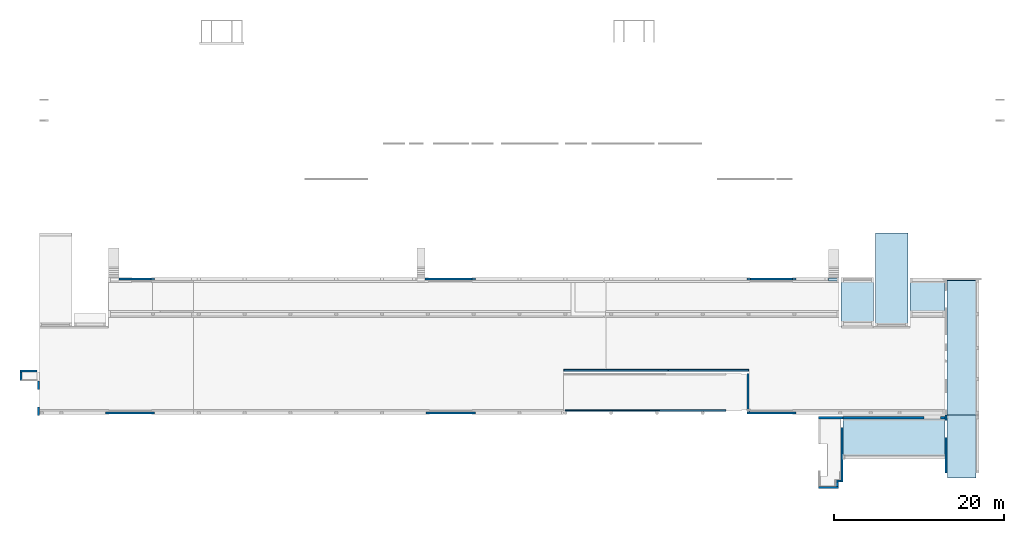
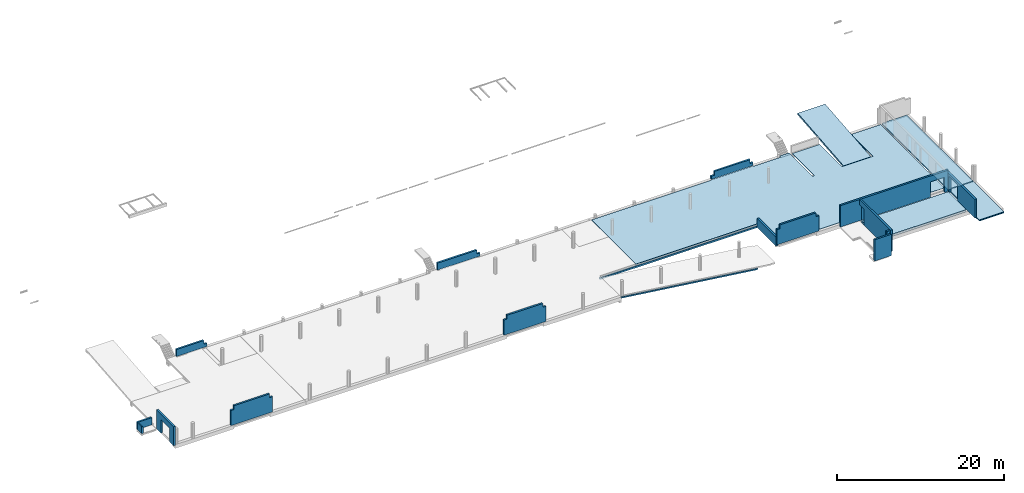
# One storey, part 5 of 9: 20 walls, 10 slabs, 16 openings.
"""IFC2X3 building model written with IfcOpenShell, lengths in millimetres."""

from ifc_helpers import new_model, entity, si_unit, converted_unit, derived_unit, direction, frame, frame_2d, origin, origin_2d_with_axis, place, context, subcontext, project, spatial, polyline, rectangle, outline, extrude, boolean, clip, bounded_halfspace, faceted_brep, material, layer, layer_set, layer_usage, type_object, element, save


model = new_model("IFC2X3")

# Units and contexts
model_context = context("Model", 3, precision=0.01, world=origin(), true_north=direction((6.12303176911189e-17, 1.0)))
body_context = subcontext(model_context, "Body", "Model", "MODEL_VIEW")
ifc_project = project(units=[si_unit("LENGTHUNIT", "METRE", prefix="MILLI"), si_unit("AREAUNIT", "SQUARE_METRE"), si_unit("VOLUMEUNIT", "CUBIC_METRE"), converted_unit("PLANEANGLEUNIT", "DEGREE", entity("IfcRatioMeasure", 0.0174532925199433), si_unit("PLANEANGLEUNIT", "RADIAN"), dimensions=[0, 0, 0, 0, 0, 0, 0]), si_unit("MASSUNIT", "GRAM", prefix="KILO"), derived_unit("MASSDENSITYUNIT", [(si_unit("MASSUNIT", "GRAM", prefix="KILO"), 1), (si_unit("LENGTHUNIT", "METRE"), -3)]), si_unit("TIMEUNIT", "SECOND"), si_unit("FREQUENCYUNIT", "HERTZ"), si_unit("THERMODYNAMICTEMPERATUREUNIT", "DEGREE_CELSIUS"), derived_unit("THERMALTRANSMITTANCEUNIT", [(si_unit("MASSUNIT", "GRAM", prefix="KILO"), 1), (si_unit("THERMODYNAMICTEMPERATUREUNIT", "KELVIN"), -1), (si_unit("TIMEUNIT", "SECOND"), -3)]), derived_unit("VOLUMETRICFLOWRATEUNIT", [(si_unit("LENGTHUNIT", "METRE"), 3), (si_unit("TIMEUNIT", "SECOND"), -1)]), si_unit("ELECTRICCURRENTUNIT", "AMPERE"), si_unit("ELECTRICVOLTAGEUNIT", "VOLT"), si_unit("POWERUNIT", "WATT"), si_unit("FORCEUNIT", "NEWTON", prefix="KILO"), si_unit("ILLUMINANCEUNIT", "LUX"), si_unit("LUMINOUSFLUXUNIT", "LUMEN"), si_unit("LUMINOUSINTENSITYUNIT", "CANDELA"), derived_unit("USERDEFINED", [(si_unit("MASSUNIT", "GRAM", prefix="KILO"), -1), (si_unit("LENGTHUNIT", "METRE"), -2), (si_unit("TIMEUNIT", "SECOND"), 3), (si_unit("LUMINOUSFLUXUNIT", "LUMEN"), 1)]), derived_unit("LINEARVELOCITYUNIT", [(si_unit("LENGTHUNIT", "METRE"), 1), (si_unit("TIMEUNIT", "SECOND"), -1)]), si_unit("PRESSUREUNIT", "PASCAL"), derived_unit("USERDEFINED", [(si_unit("LENGTHUNIT", "METRE"), -2), (si_unit("MASSUNIT", "GRAM", prefix="KILO"), 1), (si_unit("TIMEUNIT", "SECOND"), -2)])], contexts=[model_context])

# Site, building, storey
site_placement = place(None, origin())
site = spatial("IfcSite", under=ifc_project, at=site_placement, Name="Default", CompositionType="ELEMENT")
building_placement = place(site_placement, origin())
building = spatial("IfcBuilding", under=site, at=building_placement, Name="niet gebruiken", CompositionType="ELEMENT")
storey_placement = place(building_placement, frame((0.0, 0.0, 2770.0)))
storey = spatial("IfcBuildingStorey", under=building, at=storey_placement, Name="00a eerste tussenverdieping", CompositionType="ELEMENT", Elevation=2770.00000000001)

# Slabs
ifc_material_1 = material(Name="NLRS_f2_beton ihwg")
ifc_layer_1 = layer(ifc_material_1, 70.0)
ifc_layer_set_1 = layer_set([ifc_layer_1], Name="Floor:NLRS_23.21_FL_druklaag d=70 - gevlinderd en ingestrooid_gen")
ifc_layer_usage_1 = layer_usage(ifc_layer_set_1, "AXIS3", "POSITIVE", 0.0)
slab_1_placement = place(storey_placement, origin())
element("IfcSlab", 1, at=slab_1_placement, inside=storey, material=ifc_layer_usage_1, Name="Floor:NLRS_23.21_FL_druklaag d=70 - gevlinderd en ingestrooid_gen", ObjectType="Floor:NLRS_23.21_FL_druklaag d=70 - gevlinderd en ingestrooid_gen", PredefinedType="FLOOR", context=body_context, shape_type="SweptSolid", body=[
    extrude(outline(polyline([(-5935.45454545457, -24259.5454397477), (4714.54545454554, -24259.5454397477), (4714.54545454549, -7629.54543974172), (4789.54545454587, -7629.54543974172), (4789.54545454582, -1829.54543975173), (4714.54545454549, -1829.54543975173), (4714.54545454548, 1975.45456025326), (5014.54545454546, 1975.45456025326), (5014.54545454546, 3245.45456025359), (-635.4545454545, 3245.45456025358), (-635.454545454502, 3495.45456025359), (4714.54545454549, 3495.45456025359), (4714.54545454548, 7295.45456025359), (-635.454545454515, 7295.45456025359), (-635.45454545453, 11595.4545602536), (4639.54545454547, 11595.4545602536), (4639.54545454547, 15720.4545602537), (-10640.4545454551, 15720.4545602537), (-10640.4545454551, -2229.54543975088), (-10740.4545454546, -2229.54543975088), (-10740.4545454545, -7379.54560252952), (-5935.45454545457, -7379.54560252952), (-5935.45454545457, -24259.5454397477)])), frame((99229.5454397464, 20036.4545454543, 0.0), z_axis=(0.0, 0.0, -1.0), x_axis=(0.0, 1.0, 0.0)), (0.0, 0.0, 1.0), 69.9999999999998),
])
ifc_material_2 = material(Name="NLRS_f2_beton prefab")
ifc_layer_2 = layer(ifc_material_2, 255.0)
ifc_layer_set_2 = layer_set([ifc_layer_2], Name="Floor:NLRS_23.21_FL_kanaalplaat d=255_gen")
ifc_layer_usage_2 = layer_usage(ifc_layer_set_2, "AXIS3", "POSITIVE", 0.0)
slab_2_placement = place(storey_placement, origin())
element("IfcSlab", 2, at=slab_2_placement, inside=storey, material=ifc_layer_usage_2, Name="Floor:NLRS_23.21_FL_kanaalplaat d=255_gen", ObjectType="Floor:NLRS_23.21_FL_kanaalplaat d=255_gen", PredefinedType="FLOOR", context=body_context, shape_type="SweptSolid", body=[
    extrude(rectangle(XDim=3614.99999999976, YDim=4085.0008139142, at=frame_2d((2.1600499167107e-12, -8.64019966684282e-12), x_axis=(1.0, 0.0))), frame((112887.500406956, 22873.4999999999, -70.0), z_axis=(0.0, 0.0, -1.0), x_axis=(0.0, 1.0, 0.0)), (0.0, 0.0, 1.0), 255.0),
])

# Slab, opening
ifc_layer_3 = layer(ifc_material_1, 250.0)
ifc_layer_set_3 = layer_set([ifc_layer_3], Name="Floor:NLRS_23.21_FL_breedplaat d=70/250_opgeruwd_schil apart_gen")
ifc_layer_usage_3 = layer_usage(ifc_layer_set_3, "AXIS3", "POSITIVE", 0.0)
slab_3_placement = place(storey_placement, frame((106775.0, 19426.0, -251.062036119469)))
slab_3 = element("IfcSlab", 3, at=slab_3_placement, inside=storey, material=ifc_layer_usage_3, Name="Floor:NLRS_23.21_FL_breedplaat d=70/250_opgeruwd_schil apart_gen", ObjectType="Floor:NLRS_23.21_FL_breedplaat d=70/250_opgeruwd_schil apart_gen", PredefinedType="FLOOR", context=body_context, shape_type="SweptSolid", body=[
    extrude(rectangle(XDim=11049.0542581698, YDim=3799.99999999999, at=frame_2d((0.0, 5525.08843574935), x_axis=(0.0, -1.0))), frame((1900.0, -0.558814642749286, 251.062036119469), z_axis=(0.0, -0.0941257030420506, 0.995560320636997), x_axis=(1.0, 0.0, 0.0)), (0.0, -0.0941257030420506, -0.995560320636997), 251.11486950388),
])
opening_1_placement = place(slab_3_placement, origin())
element("IfcOpeningElement", 4, at=opening_1_placement, cuts=slab_3, ObjectType="Opening", context=body_context, shape_type="SweptSolid", body=[
    extrude(rectangle(XDim=380.0, YDim=3759.99999999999, at=origin_2d_with_axis()), frame((1900.0, 190.0, -214.437963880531), z_axis=(0.0, 0.0, 1.0), x_axis=(0.0, 1.0, 0.0)), (0.0, 0.0, 1.0), 250.0),
])

# Slabs
ifc_layer_usage_4 = layer_usage(ifc_layer_set_2, "AXIS3", "POSITIVE", 0.0)
slab_4_placement = place(storey_placement, origin())
element("IfcSlab", 5, at=slab_4_placement, inside=storey, material=ifc_layer_usage_4, Name="Floor:NLRS_23.21_FL_kanaalplaat d=255_gen", ObjectType="Floor:NLRS_23.21_FL_kanaalplaat d=255_gen", PredefinedType="FLOOR", context=body_context, shape_type="SweptSolid", body=[
    extrude(rectangle(XDim=4291.00000000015, YDim=11984.9999999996, at=frame_2d((4.54747350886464e-13, 0.0), x_axis=(1.0, 0.0))), frame((108937.5, 6305.50000000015, -70.0), z_axis=(0.0, 0.0, -1.0), x_axis=(0.0, 1.0, 0.0)), (0.0, 0.0, 1.0), 255.0),
])
ifc_layer_4 = layer(ifc_material_1, 70.0)
ifc_layer_set_4 = layer_set([ifc_layer_4], Name="Floor:NLRS_23.21_FL_druklaag d=70_gen")
ifc_layer_usage_5 = layer_usage(ifc_layer_set_4, "AXIS3", "POSITIVE", 0.0)
slab_5_placement = place(storey_placement, origin())
element("IfcSlab", 6, at=slab_5_placement, inside=storey, material=ifc_layer_usage_5, Name="Floor:NLRS_23.21_FL_druklaag d=70_gen", ObjectType="Floor:NLRS_23.21_FL_druklaag d=70_gen", PredefinedType="FLOOR", context=body_context, shape_type="SweptSolid", body=[
    extrude(rectangle(XDim=4330.99999999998, YDim=12024.9999079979, at=frame_2d((-2.27373675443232e-13, 8.64019966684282e-12), x_axis=(1.0, 0.0))), frame((108937.500046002, 6305.49999999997, 0.0), z_axis=(0.0, 0.0, -1.0), x_axis=(0.0, 1.0, 0.0)), (0.0, 0.0, 1.0), 69.9999999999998),
])
slab_6_placement = place(storey_placement, origin())
element("IfcSlab", 7, at=slab_6_placement, inside=storey, material=ifc_material_1, Name="Floor:NLRS_23.21_FL_breedplaat d=70/200_schil apart_gen", ObjectType="Floor:NLRS_23.21_FL_breedplaat d=70/200_schil apart_gen", PredefinedType="FLOOR", context=body_context, shape_type="Brep", body=[
    faceted_brep([(115200.0, 2100.0, -200.0), (115200.0, 8919.89264570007, -200.0), (115220.0, 8919.89264570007, -200.0), (115220.0, 2120.0, -200.0), (115245.000813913, 2120.0, -200.0), (115245.000813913, 1500.0, -200.0), (115225.000813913, 1500.0, -200.0), (115225.000813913, 2100.0, -200.0), (115225.000813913, 1500.0, 0.0), (118630.0, 1500.0, 0.0), (118630.0, 8919.89264570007, 0.0), (115200.0, 8919.89264570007, 0.0), (115200.0, 8871.0, 0.0), (115200.0, 8471.0, 0.0), (115200.0, 4140.0, 0.0), (115200.0, 3740.0, 0.0), (115200.0, 2100.0, 0.0), (115225.000813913, 2100.0, 0.0), (115245.000813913, 1500.0, -130.0), (118630.0, 1500.0, -130.0), (118630.0, 8919.89264570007, -130.0), (115220.0, 8919.89264570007, -130.0), (115220.0, 2120.0, -130.0), (115245.000813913, 2120.0, -130.0)], [[[0, 1, 2, 3, 4, 5, 6, 7]], [[8, 9, 10, 11, 12, 13, 14, 15, 16, 17]], [[9, 8, 6, 5, 18, 19]], [[1, 0, 16, 15, 14, 13, 12, 11]], [[11, 10, 20, 21, 2, 1]], [[10, 9, 19, 20]], [[7, 6, 8, 17]], [[0, 7, 17, 16]], [[22, 21, 20, 19, 18, 23]], [[21, 22, 3, 2]], [[23, 18, 5, 4]], [[22, 23, 4, 3]]]),
])
ifc_layer_5 = layer(ifc_material_1, 200.0)
ifc_layer_set_5 = layer_set([ifc_layer_5], Name="Floor:NLRS_23.21_FL_breedplaat d=70/200_schil apart_gen")
ifc_layer_usage_6 = layer_usage(ifc_layer_set_5, "AXIS3", "POSITIVE", 0.0)
slab_7_placement = place(storey_placement, origin())
element("IfcSlab", 8, at=slab_7_placement, inside=storey, material=ifc_layer_usage_6, Name="Floor:NLRS_23.21_FL_breedplaat d=70/200_schil apart_gen", ObjectType="Floor:NLRS_23.21_FL_breedplaat d=70/200_schil apart_gen", PredefinedType="FLOOR", context=body_context, shape_type="CSG", body=[
    boolean("DIFFERENCE", clip(extrude(rectangle(XDim=15906.7292147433, YDim=3450.00000000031, at=frame_2d((0.0, -8.75388650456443e-12), x_axis=(1.0, 0.0))), frame((116925.0, 16897.6353926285, 0.0), z_axis=(0.0, 0.0, -1.0), x_axis=(0.0, 1.0, 0.0)), (0.0, 0.0, 1.0), 200.0), bounded_halfspace(frame((118630.0, 10800.0, -130.0), z_axis=(0.0, 0.0, -1.0), x_axis=(0.0, 1.0, 0.0)), False, frame((116925.0, 16897.6353926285, 0.0), z_axis=(0.0, 0.0, -1.0), x_axis=(0.0, 1.0, 0.0)), polyline([(7933.36460737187, -1705.0), (7933.36460737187, 1705.0), (-7953.36460737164, 1705.0), (-7953.36460737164, -1705.0), (7933.36460737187, -1705.0)]))), extrude(rectangle(XDim=15886.7292147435, YDim=3410.00000000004, at=frame_2d((0.0, 2.60342858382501e-11), x_axis=(1.0, 0.0))), frame((116925.0, 16887.6353926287, -130.0), z_axis=(0.0, 0.0, -1.0), x_axis=(0.0, 1.0, 0.0)), (0.0, 0.0, 1.0), 69.9999999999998)),
])
ifc_layer_6 = layer(ifc_material_2, 70.0)
ifc_layer_set_6 = layer_set([ifc_layer_6], Name="Floor:NLRS_23.21_FL_breedplaatschil d=70_gen")
ifc_layer_usage_7 = layer_usage(ifc_layer_set_6, "AXIS3", "POSITIVE", 0.0)
slab_8_placement = place(storey_placement, origin())
element("IfcSlab", 9, at=slab_8_placement, inside=storey, material=ifc_layer_usage_7, Name="Floor:NLRS_23.21_FL_breedplaatschil d=70_gen", ObjectType="Floor:NLRS_23.21_FL_breedplaatschil d=70_gen", PredefinedType="FLOOR", context=body_context, shape_type="SweptSolid", body=[
    extrude(outline(polyline([(-2059.96421523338, -1145.00027130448), (4739.92843046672, -1145.00027130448), (4739.92843046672, 2264.99972869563), (-2679.96421523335, 2264.99972869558), (-2679.96421523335, -1119.99945739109), (-2059.96421523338, -1119.99945739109), (-2059.96421523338, -1145.00027130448)])), frame((116365.000271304, 4179.96421523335, -130.0), z_axis=(0.0, 0.0, -1.0), x_axis=(0.0, 1.0, 0.0)), (0.0, 0.0, 1.0), 69.9999999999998),
])
ifc_layer_usage_8 = layer_usage(ifc_layer_set_6, "AXIS3", "POSITIVE", 0.0)
slab_9_placement = place(storey_placement, origin())
element("IfcSlab", 10, at=slab_9_placement, inside=storey, material=ifc_layer_usage_8, Name="Floor:NLRS_23.21_FL_breedplaatschil d=70_gen", ObjectType="Floor:NLRS_23.21_FL_breedplaatschil d=70_gen", PredefinedType="FLOOR", context=body_context, shape_type="SweptSolid", body=[
    extrude(rectangle(XDim=15886.7292147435, YDim=3410.00000000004, at=frame_2d((0.0, 2.60342858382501e-11), x_axis=(1.0, 0.0))), frame((116925.0, 16887.6353926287, -130.0), z_axis=(0.0, 0.0, -1.0), x_axis=(0.0, 1.0, 0.0)), (0.0, 0.0, 1.0), 69.9999999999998),
])
ifc_layer_usage_9 = layer_usage(ifc_layer_set_4, "AXIS3", "POSITIVE", 0.0)
slab_10_placement = place(storey_placement, origin())
element("IfcSlab", 11, at=slab_10_placement, inside=storey, material=ifc_layer_usage_9, Name="Floor:NLRS_23.21_FL_druklaag d=70_gen", ObjectType="Floor:NLRS_23.21_FL_druklaag d=70_gen", PredefinedType="FLOOR", context=body_context, shape_type="SweptSolid", body=[
    extrude(rectangle(XDim=320.000000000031, YDim=1270.00000000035, at=frame_2d((0.0, 8.69704308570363e-12), x_axis=(1.0, 0.0))), frame((101840.0, 24916.0, -70.0), z_axis=(0.0, 0.0, -1.0), x_axis=(0.0, 1.0, 0.0)), (0.0, 0.0, 1.0), 69.9999999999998),
])

# Walls
ifc_layer_7 = layer(ifc_material_2, 250.0)
ifc_layer_set_7 = layer_set([ifc_layer_7], Name="Basic Wall:NLRS_21.21_WA_beton prefab d=250_gen")
ifc_layer_usage_10 = layer_usage(ifc_layer_set_7, "AXIS2", "NEGATIVE", 125.0)
wall_type_1 = type_object("IfcWallType", Name="Basic Wall:NLRS_21.21_WA_beton prefab d=250_gen", PredefinedType="STANDARD", material=ifc_layer_set_7)
wall_1_placement = place(storey_placement, frame((100045.0, 410.0, 20.0)))
element("IfcWallStandardCase", 12, at=wall_1_placement, inside=storey, type_object=wall_type_1, material=ifc_layer_usage_10, Name="Basic Wall:NLRS_21.21_WA_beton prefab d=250_gen", ObjectType="Basic Wall:NLRS_21.21_WA_beton prefab d=250_gen", context=body_context, shape_type="SweptSolid", body=[
    extrude(rectangle(XDim=2330.00027871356, YDim=250.0, at=frame_2d((1165.00013935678, -2.8421709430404e-14), x_axis=(-1.0, 0.0))), origin(), (0.0, 0.0, 1.0), 3119.99999999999),
])
ifc_layer_usage_11 = layer_usage(ifc_layer_set_7, "AXIS2", "NEGATIVE", 125.0)
wall_2_placement = place(storey_placement, frame((102125.000278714, 1175.0, 20.0)))
element("IfcWallStandardCase", 13, at=wall_2_placement, inside=storey, type_object=wall_type_1, material=ifc_layer_usage_11, Name="Basic Wall:NLRS_21.21_WA_beton prefab d=250_gen", ObjectType="Basic Wall:NLRS_21.21_WA_beton prefab d=250_gen", context=body_context, shape_type="SweptSolid", body=[
    extrude(rectangle(XDim=549.999721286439, YDim=250.0, at=frame_2d((274.99986064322, 7.105427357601e-15), x_axis=(-1.0, 0.0))), origin(), (0.0, 0.0, 1.0), 3119.99999999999),
])

# Wall, opening
ifc_layer_usage_12 = layer_usage(ifc_layer_set_7, "AXIS2", "NEGATIVE", 125.0)
wall_3_placement = place(storey_placement, frame((102800.0, 1050.0, 20.0), z_axis=(0.0, 0.0, 1.0), x_axis=(0.0, 1.0, 0.0)))
wall_3 = element("IfcWallStandardCase", 14, at=wall_3_placement, inside=storey, type_object=wall_type_1, material=ifc_layer_usage_12, Name="Basic Wall:NLRS_21.21_WA_beton prefab d=250_gen", ObjectType="Basic Wall:NLRS_21.21_WA_beton prefab d=250_gen", context=body_context, shape_type="SweptSolid", body=[
    extrude(rectangle(XDim=7445.99999999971, YDim=250.000000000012, at=frame_2d((3722.99999999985, 7.60280727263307e-13), x_axis=(-1.0, 0.0))), origin(), (0.0, 0.0, 1.0), 3119.99999999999),
])
opening_2_placement = place(wall_3_placement, origin())
element("IfcOpeningElement", 15, at=opening_2_placement, cuts=wall_3, Name="Basic Wall:NLRS_21.21_WA_beton prefab d=250_gen", ObjectType="Opening", context=body_context, shape_type="SweptSolid", body=[
    extrude(rectangle(XDim=2385.0, YDim=1016.0, at=frame_2d((-5.6843418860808e-13, 0.0), x_axis=(1.0, 0.0))), frame((6938.0, -125.0, 1172.5), z_axis=(0.0, 1.0, 0.0), x_axis=(0.0, 0.0, -1.0)), (0.0, 0.0, 1.0), 250.000000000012),
])

# Walls
ifc_layer_usage_13 = layer_usage(ifc_layer_set_7, "AXIS2", "NEGATIVE", 125.0)
wall_4_placement = place(storey_placement, frame((102250.000278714, 535.0, 20.0), z_axis=(0.0, 0.0, 1.0), x_axis=(0.0, 1.0, 0.0)))
element("IfcWallStandardCase", 16, at=wall_4_placement, inside=storey, type_object=wall_type_1, material=ifc_layer_usage_13, Name="Basic Wall:NLRS_21.21_WA_beton prefab d=250_gen", ObjectType="Basic Wall:NLRS_21.21_WA_beton prefab d=250_gen", context=body_context, shape_type="SweptSolid", body=[
    extrude(rectangle(XDim=515.000000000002, YDim=250.000000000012, at=frame_2d((257.500000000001, 1.25055521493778e-12), x_axis=(-1.0, 0.0))), origin(), (0.0, 0.0, 1.0), 3119.99999999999),
])
ifc_layer_usage_14 = layer_usage(ifc_layer_set_7, "AXIS2", "NEGATIVE", 125.0)
wall_5_placement = place(storey_placement, frame((100045.0, 8621.0, 20.0)))
element("IfcWallStandardCase", 17, at=wall_5_placement, inside=storey, type_object=wall_type_1, material=ifc_layer_usage_14, Name="Basic Wall:NLRS_21.21_WA_beton prefab d=250_gen", ObjectType="Basic Wall:NLRS_21.21_WA_beton prefab d=250_gen", context=body_context, shape_type="SweptSolid", body=[
    extrude(rectangle(XDim=2880.00000000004, YDim=249.999999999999, at=frame_2d((1440.00000000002, 0.0), x_axis=(-1.0, 0.0))), origin(), (0.0, 0.0, 1.0), 3119.99999999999),
])

# Wall, opening
ifc_layer_usage_15 = layer_usage(ifc_layer_set_7, "AXIS2", "NEGATIVE", 125.0)
wall_6_placement = place(storey_placement, frame((102925.0, 8621.0, 30.0)))
wall_6 = element("IfcWallStandardCase", 18, at=wall_6_placement, inside=storey, type_object=wall_type_1, material=ifc_layer_usage_15, Name="Basic Wall:NLRS_21.21_WA_beton prefab d=250_gen", ObjectType="Basic Wall:NLRS_21.21_WA_beton prefab d=250_gen", context=body_context, shape_type="SweptSolid", body=[
    extrude(rectangle(XDim=12024.9999999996, YDim=249.999999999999, at=frame_2d((6012.49999999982, 0.0), x_axis=(-1.0, 0.0))), origin(), (0.0, 0.0, 1.0), 3109.99999999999),
])
opening_3_placement = place(wall_6_placement, origin())
element("IfcOpeningElement", 19, at=opening_3_placement, cuts=wall_6, Name="Basic Wall:NLRS_21.21_WA_beton prefab d=250_gen", ObjectType="Opening", context=body_context, shape_type="SweptSolid", body=[
    extrude(rectangle(XDim=2270.0, YDim=1953.00000000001, at=frame_2d((0.0, 4.54747350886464e-13), x_axis=(0.0, 1.0))), frame((10550.4999999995, -125.0, 1105.0), z_axis=(0.0, 1.0, 0.0), x_axis=(1.0, 0.0, 0.0)), (0.0, 0.0, 1.0), 249.999999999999),
])

ifc_layer_usage_16 = layer_usage(ifc_layer_set_7, "AXIS2", "NEGATIVE", 125.0)
wall_7_placement = place(storey_placement, frame((115075.0, 2100.0, 20.0), z_axis=(0.0, 0.0, 1.0), x_axis=(0.0, 1.0, 0.0)))
wall_7 = element("IfcWallStandardCase", 20, at=wall_7_placement, inside=storey, type_object=wall_type_1, material=ifc_layer_usage_16, Name="Basic Wall:NLRS_21.21_WA_beton prefab d=250_gen", ObjectType="Basic Wall:NLRS_21.21_WA_beton prefab d=250_gen", context=body_context, shape_type="SweptSolid", body=[
    extrude(rectangle(XDim=6826.00000000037, YDim=250.000000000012, at=frame_2d((3413.00000000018, -7.46069872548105e-13), x_axis=(-1.0, 0.0))), origin(), (0.0, 0.0, 1.0), 2699.99999999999),
])
opening_4_placement = place(wall_7_placement, frame((4206.0, 125.0, 0.0)))
element("IfcOpeningElement", 21, at=opening_4_placement, cuts=wall_7, Name="Basic Wall:NLRS_21.21_WA_beton prefab d=250_gen", ObjectType="Opening", context=body_context, shape_type="Brep", body=[
    faceted_brep([(12.0, 0.0, 2365.0), (1965.0, 0.0, 2365.0), (1965.0, 0.0, 0.0), (12.0, 0.0, 0.0), (0.0, -250.0, 2377.0), (0.0, -250.0, 0.0), (1977.0, -250.0, 0.0), (1977.0, -250.0, 2377.0)], [[[0, 1, 2, 3]], [[4, 5, 6, 7]], [[4, 7, 1, 0]], [[7, 6, 2, 1]], [[6, 5, 3, 2]], [[5, 4, 0, 3]]]),
])

ifc_layer_usage_17 = layer_usage(ifc_layer_set_7, "AXIS2", "NEGATIVE", 125.0)
wall_8_placement = place(storey_placement, frame((6050.0, 13006.0, 0.0), z_axis=(0.0, 0.0, 1.0), x_axis=(0.0, 1.0, 0.0)))
wall_8 = element("IfcWallStandardCase", 22, at=wall_8_placement, inside=storey, type_object=wall_type_1, material=ifc_layer_usage_17, Name="Basic Wall:NLRS_21.21_WA_beton prefab d=250_gen", ObjectType="Basic Wall:NLRS_21.21_WA_beton prefab d=250_gen", context=body_context, shape_type="SweptSolid", body=[
    extrude(rectangle(XDim=1010.0, YDim=249.999999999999, at=frame_2d((505.000000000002, 0.0), x_axis=(-1.0, 0.0))), origin(), (0.0, 0.0, 1.0), 1039.99999999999),
])
opening_5_placement = place(wall_8_placement, origin())
element("IfcOpeningElement", 23, at=opening_5_placement, cuts=wall_8, Name="Basic Wall:NLRS_21.21_WA_beton prefab d=250_gen", ObjectType="Recess", context=body_context, shape_type="SweptSolid", body=[
    extrude(rectangle(XDim=130.0, YDim=1010.0, at=frame_2d((0.0, -2.70006239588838e-13), x_axis=(0.0, 1.0))), frame((505.0, -125.0, 975.0), z_axis=(0.0, 1.0, 0.0), x_axis=(1.0, 0.0, 0.0)), (0.0, 0.0, 1.0), 130.000000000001),
])

# Wall
ifc_layer_usage_18 = layer_usage(ifc_layer_set_7, "AXIS2", "NEGATIVE", 125.0)
wall_9_placement = place(storey_placement, frame((7955.0, 14141.0, 0.0), z_axis=(0.0, 0.0, 1.0), x_axis=(-1.0, 0.0, 0.0)))
element("IfcWallStandardCase", 24, at=wall_9_placement, inside=storey, type_object=wall_type_1, material=ifc_layer_usage_18, Name="Basic Wall:NLRS_21.21_WA_beton prefab d=250_gen", ObjectType="Basic Wall:NLRS_21.21_WA_beton prefab d=250_gen", context=body_context, shape_type="SweptSolid", body=[
    extrude(rectangle(XDim=2029.99999999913, YDim=249.999999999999, at=frame_2d((1014.99999999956, 7.17648163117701e-13), x_axis=(-1.0, 0.0))), origin(), (0.0, 0.0, 1.0), 1039.99999999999),
])

# Wall, opening
ifc_layer_8 = layer(ifc_material_2, 250.0)
ifc_layer_set_8 = layer_set([ifc_layer_8], Name="Basic Wall:NLRS_22.21_WA_beton prefab d=250_gen")
ifc_layer_usage_19 = layer_usage(ifc_layer_set_8, "AXIS2", "NEGATIVE", 125.0)
wall_type_2 = type_object("IfcWallType", Name="Basic Wall:NLRS_22.21_WA_beton prefab d=250_gen", PredefinedType="STANDARD", material=ifc_layer_set_8)
wall_10_placement = place(storey_placement, frame((8100.0, 12986.0, 20.0), z_axis=(0.0, 0.0, 1.0), x_axis=(0.0, -1.0, 0.0)))
wall_10 = element("IfcWallStandardCase", 25, at=wall_10_placement, inside=storey, type_object=wall_type_2, material=ifc_layer_usage_19, Name="Basic Wall:NLRS_22.21_WA_beton prefab d=250_gen", ObjectType="Basic Wall:NLRS_22.21_WA_beton prefab d=250_gen", context=body_context, shape_type="SweptSolid", body=[
    extrude(rectangle(XDim=4100.0, YDim=249.999999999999, at=frame_2d((2050.0, 0.0), x_axis=(-1.0, 0.0))), origin(), (0.0, 0.0, 1.0), 2780.0),
])
opening_6_placement = place(wall_10_placement, origin())
element("IfcOpeningElement", 26, at=opening_6_placement, cuts=wall_10, Name="Basic Wall:NLRS_22.21_WA_beton prefab d=250_gen", ObjectType="Opening", context=body_context, shape_type="SweptSolid", body=[
    extrude(rectangle(XDim=1990.0, YDim=2050.0, at=frame_2d((0.0, -1.13686837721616e-12), x_axis=(1.0, 0.0))), frame((2050.0, -1649.0, 975.0), z_axis=(0.0, 1.0, 0.0), x_axis=(0.0, 0.0, 1.0)), (0.0, 0.0, 1.0), 3048.0),
])

# Walls
ifc_layer_usage_20 = layer_usage(ifc_layer_set_8, "AXIS2", "NEGATIVE", 125.0)
wall_11_placement = place(storey_placement, frame((91725.0, 9341.0, -325.0), z_axis=(0.0, 0.0, 1.0), x_axis=(0.0, 1.0, 0.0)))
element("IfcWallStandardCase", 27, at=wall_11_placement, inside=storey, type_object=wall_type_2, material=ifc_layer_usage_20, Name="Basic Wall:NLRS_22.21_WA_beton prefab d=250_gen", ObjectType="Basic Wall:NLRS_22.21_WA_beton prefab d=250_gen", context=body_context, shape_type="SweptSolid", body=[
    extrude(rectangle(XDim=4514.61573900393, YDim=250.000000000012, at=frame_2d((2257.30786950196, 2.60058641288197e-12), x_axis=(-1.0, 0.0))), origin(), (0.0, 0.0, 1.0), 1324.99999999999),
])
wall_type_3 = type_object("IfcWallType", Name="NLRS_21.21_SF_WPB_oplegnok prefabbeton_gen:200x250", PredefinedType="NOTDEFINED", material=ifc_material_2)
wall_12_placement = place(storey_placement, frame((70000.0, 14126.0, -580.0)))
element("IfcWall", 28, at=wall_12_placement, inside=storey, type_object=wall_type_3, material=ifc_material_2, Name="NLRS_21.21_SF_WPB_oplegnok prefabbeton_gen:200x250", ObjectType="NLRS_21.21_SF_WPB_oplegnok prefabbeton_gen:200x250", context=body_context, shape_type="SweptSolid", body=[
    extrude(rectangle(XDim=12340.0, YDim=200.0, at=frame_2d((4.54747350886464e-12, -1.08713038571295e-12), x_axis=(1.0, 0.0))), frame((6170.0, 100.0, 0.0)), (0.0, 0.0, 1.0), 250.000000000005),
])
wall_13_placement = place(storey_placement, frame((82360.0, 14125.6157390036, -580.0)))
element("IfcWall", 29, at=wall_13_placement, inside=storey, type_object=wall_type_3, material=ifc_material_2, Name="NLRS_21.21_SF_WPB_oplegnok prefabbeton_gen:200x250", ObjectType="NLRS_21.21_SF_WPB_oplegnok prefabbeton_gen:200x250", context=body_context, shape_type="SweptSolid", body=[
    extrude(rectangle(XDim=9489.99983721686, YDim=200.0, at=frame_2d((0.0, 1.08713038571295e-12), x_axis=(1.0, 0.0))), frame((4744.99991860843, 100.0, 0.0)), (0.0, 0.0, 1.0), 250.000000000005),
])
wall_type_4 = type_object("IfcWallType", Name="NLRS_21.21_SF_WPB_oplegnok prefabbeton_gen:200x200", PredefinedType="NOTDEFINED", material=ifc_material_2)
wall_14_placement = place(storey_placement, frame((70221.395146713, 9396.0, -2933.32901760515)))
element("IfcWall", 30, at=wall_14_placement, inside=storey, type_object=wall_type_4, material=ifc_material_2, Name="NLRS_21.21_SF_WPB_oplegnok prefabbeton_gen:200x200", ObjectType="NLRS_21.21_SF_WPB_oplegnok prefabbeton_gen:200x200", context=body_context, shape_type="SweptSolid", body=[
    extrude(rectangle(XDim=19033.207626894, YDim=200.0, at=frame_2d((-1903.32076268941, 16.0000000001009), x_axis=(1.0, 0.0))), frame((11327.1629119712, 84.0, 968.402508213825), z_axis=(0.127199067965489, 0.0, 0.991877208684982), x_axis=(0.991877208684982, 0.0, -0.127199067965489)), (0.0, 0.0, 1.0), 199.999999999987),
])

# Wall, opening
ifc_layer_9 = layer(ifc_material_2, 250.0)
ifc_layer_set_9 = layer_set([ifc_layer_9], Name="Basic Wall:NLRS_16.21_WA_beton prefab d=250_gen")
ifc_layer_usage_21 = layer_usage(ifc_layer_set_9, "AXIS2", "NEGATIVE", 125.0)
wall_type_5 = type_object("IfcWallType", Name="Basic Wall:NLRS_16.21_WA_beton prefab d=250_gen", PredefinedType="STANDARD", material=ifc_layer_set_9)
wall_15_placement = place(storey_placement, frame((17595.0, 24976.0, 30.0)))
wall_15 = element("IfcWallStandardCase", 31, at=wall_15_placement, inside=storey, type_object=wall_type_5, material=ifc_layer_usage_21, Name="Basic Wall:NLRS_16.21_WA_beton prefab d=250_gen", ObjectType="Basic Wall:NLRS_16.21_WA_beton prefab d=250_gen", context=body_context, shape_type="SweptSolid", body=[
    extrude(rectangle(XDim=4204.99999999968, YDim=250.000000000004, at=frame_2d((2102.49999999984, -5.25801624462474e-13), x_axis=(-1.0, 0.0))), origin(), (0.0, 0.0, 1.0), 1019.99999999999),
])
opening_7_placement = place(wall_15_placement, origin())
element("IfcOpeningElement", 32, at=opening_7_placement, cuts=wall_15, Name="Basic Wall:NLRS_16.21_WA_beton prefab d=250_gen", ObjectType="Opening", context=body_context, shape_type="SweptSolid", body=[
    extrude(rectangle(XDim=559.999999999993, YDim=420.0, at=frame_2d((-5.40012479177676e-13, 0.0), x_axis=(1.0, 0.0))), frame((3995.0, 125.0, 740.0), z_axis=(0.0, -1.0, 0.0), x_axis=(0.0, 0.0, 1.0)), (0.0, 0.0, 1.0), 250.0),
])

# Wall, openings
ifc_layer_usage_22 = layer_usage(ifc_layer_set_9, "AXIS2", "NEGATIVE", 125.0)
wall_16_placement = place(storey_placement, frame((16000.0, 9196.0, 30.0)))
wall_16 = element("IfcWallStandardCase", 33, at=wall_16_placement, inside=storey, type_object=wall_type_5, material=ifc_layer_usage_22, Name="Basic Wall:NLRS_16.21_WA_beton prefab d=250_gen", ObjectType="Basic Wall:NLRS_16.21_WA_beton prefab d=250_gen", context=body_context, shape_type="SweptSolid", body=[
    extrude(rectangle(XDim=5799.99999999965, YDim=249.999999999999, at=frame_2d((2899.99999999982, -1.13686837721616e-13), x_axis=(-1.0, 0.0))), origin(), (0.0, 0.0, 1.0), 2780.0),
])
opening_8_placement = place(wall_16_placement, origin())
element("IfcOpeningElement", 34, at=opening_8_placement, cuts=wall_16, Name="Basic Wall:NLRS_16.21_WA_beton prefab d=250_gen", ObjectType="Opening", context=body_context, shape_type="SweptSolid", body=[
    extrude(rectangle(XDim=560.000000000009, YDim=420.0, at=origin_2d_with_axis()), frame((5590.0, 125.0, 2500.0), z_axis=(0.0, -1.0, 0.0), x_axis=(0.0, 0.0, 1.0)), (0.0, 0.0, 1.0), 250.0),
])
opening_9_placement = place(wall_16_placement, origin())
element("IfcOpeningElement", 35, at=opening_9_placement, cuts=wall_16, Name="Basic Wall:NLRS_16.21_WA_beton prefab d=250_gen", ObjectType="Opening", context=body_context, shape_type="SweptSolid", body=[
    extrude(rectangle(XDim=560.000000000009, YDim=420.000000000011, at=frame_2d((1.08002495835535e-12, 0.0), x_axis=(0.0, 1.0))), frame((210.0, 125.0, 2500.0), z_axis=(0.0, -1.0, 0.0), x_axis=(-1.0, 0.0, 0.0)), (0.0, 0.0, 1.0), 250.0),
])

# Wall, opening
ifc_layer_usage_23 = layer_usage(ifc_layer_set_9, "AXIS2", "NEGATIVE", 125.0)
wall_17_placement = place(storey_placement, frame((53690.0, 24976.0, 30.0)))
wall_17 = element("IfcWallStandardCase", 36, at=wall_17_placement, inside=storey, type_object=wall_type_5, material=ifc_layer_usage_23, Name="Basic Wall:NLRS_16.21_WA_beton prefab d=250_gen", ObjectType="Basic Wall:NLRS_16.21_WA_beton prefab d=250_gen", context=body_context, shape_type="SweptSolid", body=[
    extrude(rectangle(XDim=5909.99999999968, YDim=250.000000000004, at=frame_2d((2954.99999999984, 2.1316282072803e-14), x_axis=(-1.0, 0.0))), origin(), (0.0, 0.0, 1.0), 1019.99999999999),
])
opening_10_placement = place(wall_17_placement, origin())
element("IfcOpeningElement", 37, at=opening_10_placement, cuts=wall_17, Name="Basic Wall:NLRS_16.21_WA_beton prefab d=250_gen", ObjectType="Opening", context=body_context, shape_type="SweptSolid", body=[
    extrude(rectangle(XDim=559.999999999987, YDim=420.000000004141, at=frame_2d((0.0, 4.33431068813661e-12), x_axis=(1.0, 0.0))), frame((5700.0, 125.0, 740.0), z_axis=(0.0, -1.0, 0.0), x_axis=(0.0, 0.0, 1.0)), (0.0, 0.0, 1.0), 250.0),
])

# Wall, openings
ifc_layer_usage_24 = layer_usage(ifc_layer_set_9, "AXIS2", "NEGATIVE", 125.0)
wall_18_placement = place(storey_placement, frame((91600.0, 24976.0, 30.0)))
wall_18 = element("IfcWallStandardCase", 38, at=wall_18_placement, inside=storey, type_object=wall_type_5, material=ifc_layer_usage_24, Name="Basic Wall:NLRS_16.21_WA_beton prefab d=250_gen", ObjectType="Basic Wall:NLRS_16.21_WA_beton prefab d=250_gen", context=body_context, shape_type="SweptSolid", body=[
    extrude(rectangle(XDim=5799.99999999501, YDim=250.000000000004, at=frame_2d((2899.9999999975, 0.0), x_axis=(-1.0, 0.0))), origin(), (0.0, 0.0, 1.0), 1019.99999999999),
])
opening_11_placement = place(wall_18_placement, origin())
element("IfcOpeningElement", 39, at=opening_11_placement, cuts=wall_18, Name="Basic Wall:NLRS_16.21_WA_beton prefab d=250_gen", ObjectType="Opening", context=body_context, shape_type="SweptSolid", body=[
    extrude(rectangle(XDim=559.999999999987, YDim=420.000000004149, at=frame_2d((0.0, 8.66862137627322e-12), x_axis=(1.0, 0.0))), frame((5590.0, 125.0, 740.0), z_axis=(0.0, -1.0, 0.0), x_axis=(0.0, 0.0, 1.0)), (0.0, 0.0, 1.0), 250.0),
])
opening_12_placement = place(wall_18_placement, origin())
element("IfcOpeningElement", 40, at=opening_12_placement, cuts=wall_18, Name="Basic Wall:NLRS_16.21_WA_beton prefab d=250_gen", ObjectType="Opening", context=body_context, shape_type="SweptSolid", body=[
    extrude(rectangle(XDim=560.000000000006, YDim=419.999999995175, at=frame_2d((8.66862137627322e-12, 0.0), x_axis=(0.0, 1.0))), frame((210.0, 125.0, 740.0), z_axis=(0.0, -1.0, 0.0), x_axis=(-1.0, 0.0, 0.0)), (0.0, 0.0, 1.0), 250.0),
])

ifc_layer_usage_25 = layer_usage(ifc_layer_set_9, "AXIS2", "NEGATIVE", 125.0)
wall_19_placement = place(storey_placement, frame((53800.0, 9196.0, 30.0)))
wall_19 = element("IfcWallStandardCase", 41, at=wall_19_placement, inside=storey, type_object=wall_type_5, material=ifc_layer_usage_25, Name="Basic Wall:NLRS_16.21_WA_beton prefab d=250_gen", ObjectType="Basic Wall:NLRS_16.21_WA_beton prefab d=250_gen", context=body_context, shape_type="SweptSolid", body=[
    extrude(rectangle(XDim=5800.0, YDim=249.999999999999, at=frame_2d((2900.0, 3.19744231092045e-13), x_axis=(-1.0, 0.0))), origin(), (0.0, 0.0, 1.0), 2780.0),
])
opening_13_placement = place(wall_19_placement, origin())
element("IfcOpeningElement", 42, at=opening_13_placement, cuts=wall_19, Name="Basic Wall:NLRS_16.21_WA_beton prefab d=250_gen", ObjectType="Opening", context=body_context, shape_type="SweptSolid", body=[
    extrude(rectangle(XDim=560.000000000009, YDim=420.000000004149, at=origin_2d_with_axis()), frame((5590.0, 125.0, 2500.0), z_axis=(0.0, -1.0, 0.0), x_axis=(0.0, 0.0, 1.0)), (0.0, 0.0, 1.0), 250.0),
])
opening_14_placement = place(wall_19_placement, origin())
element("IfcOpeningElement", 43, at=opening_14_placement, cuts=wall_19, Name="Basic Wall:NLRS_16.21_WA_beton prefab d=250_gen", ObjectType="Opening", context=body_context, shape_type="SweptSolid", body=[
    extrude(rectangle(XDim=560.000000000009, YDim=420.000000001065, at=frame_2d((0.0, 0.0), x_axis=(0.0, 1.0))), frame((210.0, 125.0, 2500.0), z_axis=(0.0, -1.0, 0.0), x_axis=(-1.0, 0.0, 0.0)), (0.0, 0.0, 1.0), 250.0),
])

ifc_layer_usage_26 = layer_usage(ifc_layer_set_9, "AXIS2", "NEGATIVE", 125.0)
wall_20_placement = place(storey_placement, frame((91600.0, 9196.0, 30.0)))
wall_20 = element("IfcWallStandardCase", 44, at=wall_20_placement, inside=storey, type_object=wall_type_5, material=ifc_layer_usage_26, Name="Basic Wall:NLRS_16.21_WA_beton prefab d=250_gen", ObjectType="Basic Wall:NLRS_16.21_WA_beton prefab d=250_gen", context=body_context, shape_type="SweptSolid", body=[
    extrude(rectangle(XDim=5799.99999999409, YDim=249.999999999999, at=frame_2d((2899.99999999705, 3.19744231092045e-13), x_axis=(-1.0, 0.0))), origin(), (0.0, 0.0, 1.0), 2780.0),
])
opening_15_placement = place(wall_20_placement, origin())
element("IfcOpeningElement", 45, at=opening_15_placement, cuts=wall_20, Name="Basic Wall:NLRS_16.21_WA_beton prefab d=250_gen", ObjectType="Opening", context=body_context, shape_type="SweptSolid", body=[
    extrude(rectangle(XDim=560.00000000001, YDim=420.000000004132, at=frame_2d((5.40012479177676e-13, 0.0), x_axis=(1.0, 0.0))), frame((5590.0, 125.0, 2500.0), z_axis=(0.0, -1.0, 0.0), x_axis=(0.0, 0.0, 1.0)), (0.0, 0.0, 1.0), 250.0),
])
opening_16_placement = place(wall_20_placement, origin())
element("IfcOpeningElement", 46, at=opening_16_placement, cuts=wall_20, Name="Basic Wall:NLRS_16.21_WA_beton prefab d=250_gen", ObjectType="Opening", context=body_context, shape_type="SweptSolid", body=[
    extrude(rectangle(XDim=560.00000000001, YDim=419.999999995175, at=frame_2d((-8.66862137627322e-12, 5.40012479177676e-13), x_axis=(0.0, 1.0))), frame((210.0, 125.0, 2500.0), z_axis=(0.0, -1.0, 0.0), x_axis=(-1.0, 0.0, 0.0)), (0.0, 0.0, 1.0), 250.0),
])

save(model, "model.ifc")
